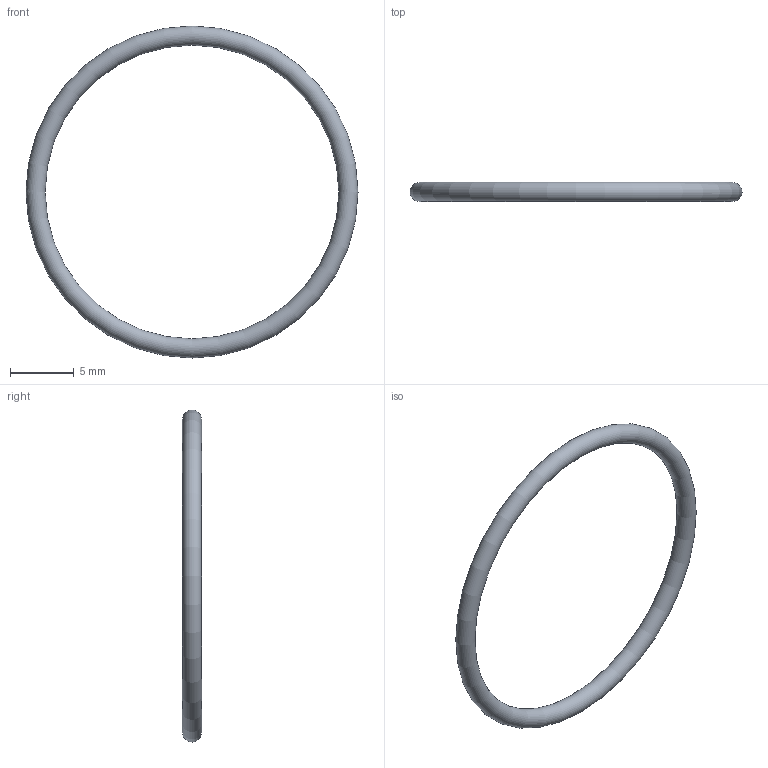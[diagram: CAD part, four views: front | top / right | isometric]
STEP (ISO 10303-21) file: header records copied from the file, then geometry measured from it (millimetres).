
FILE_DESCRIPTION( ( 'STEP AP203' ), '1' );
FILE_NAME( 'C:/Temp/Ganter_Step_05_03_2020/data/3_5/or638/O-Ring OR638-23.00-1.50-70.stp', '2020-03-12T13:44:18', ( 'License CC BY-ND 4.0' ), ( 'CADENAS' ), ' ', 'PARTsolutions', ' ' );
FILE_SCHEMA( ( 'CONFIG_CONTROL_DESIGN' ) );
Length unit declared in the file: millimetre
Products named in the file (1): _O-Ring OR638-23.00-1.50-70
Bounding box: 26 x 1.5 x 26 mm (x, y, z)
Volume: 136 mm3; surface area: 362.7 mm2
Topology: 1 solids, 1 shells, 1 faces, 2 edges, 1 vertices
Faces by surface type: torus 1
Entity records: 62 total; most frequent: CC_DESIGN_PERSON_AND_ORGANIZATION_ASSIGNMENT 5, PERSON_AND_ORGANIZATION_ROLE 4, DIRECTION 4, CARTESIAN_POINT 3, DATE_TIME_ROLE 2, CC_DESIGN_DATE_AND_TIME_ASSIGNMENT 2, AXIS2_PLACEMENT_3D 2, DIMENSIONAL_EXPONENTS 2
